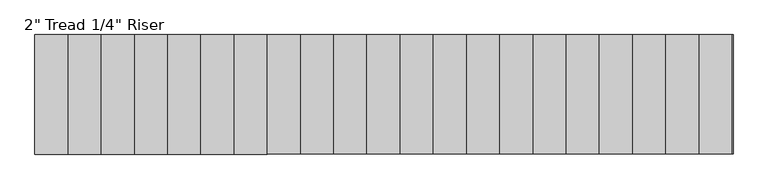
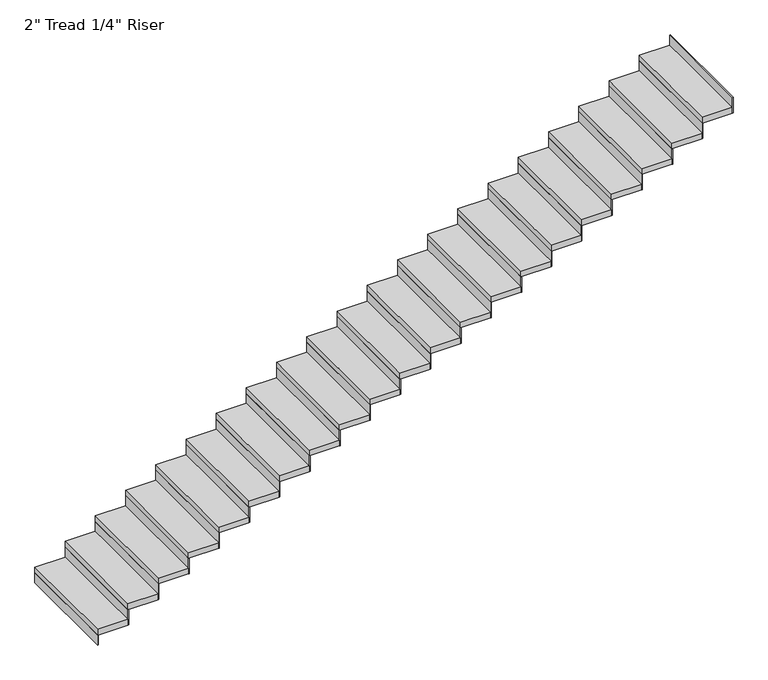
"""IFC4 building model written with IfcOpenShell, lengths in millimetres: stair flight geometry."""

from ifc_helpers import new_model, si_unit, frame, origin, origin_with_axes, place, context, project, spatial, polyline, outline, extrude, source, transform, mapped, element, save


def stair_flight_2cf32423(model_context):
    return source(origin(), model_context, "Body", "SweptSolid", [
        extrude(outline(polyline([(-14526.9713318, 6728.764969), (-14533.3213318, 6728.764969), (-14533.3213318, 7643.164969), (-14526.9713318, 7643.164969), (-14526.9713318, 6728.764969)])), origin_with_axes(), (0.0, 0.0, 1.0), 87.7454545),
        extrude(outline(polyline([(-14279.3213318, 7643.164969), (-14279.3213318, 6728.764969), (-14533.3213318, 6728.764969), (-14533.3213318, 7643.164969), (-14279.3213318, 7643.164969)])), frame((0.0, 0.0, 87.7454545), z_axis=(0.0, 0.0, 1.0), x_axis=(1.0, 0.0, 0.0)), (0.0, 0.0, 1.0), 50.8),
        extrude(outline(polyline([(-14272.9713318, 6728.764969), (-14279.3213318, 6728.764969), (-14279.3213318, 7643.164969), (-14272.9713318, 7643.164969), (-14272.9713318, 6728.764969)])), frame((0.0, 0.0, 87.7454545), z_axis=(0.0, 0.0, 1.0), x_axis=(1.0, 0.0, 0.0)), (0.0, 0.0, 1.0), 138.5454545),
        extrude(outline(polyline([(-14025.3213318, 7643.164969), (-14025.3213318, 6728.764969), (-14279.3213318, 6728.764969), (-14279.3213318, 7643.164969), (-14025.3213318, 7643.164969)])), frame((0.0, 0.0, 226.2909091), z_axis=(0.0, 0.0, 1.0), x_axis=(1.0, 0.0, 0.0)), (0.0, 0.0, 1.0), 50.8),
        extrude(outline(polyline([(-14018.9713318, 6728.764969), (-14025.3213318, 6728.764969), (-14025.3213318, 7643.164969), (-14018.9713318, 7643.164969), (-14018.9713318, 6728.764969)])), frame((0.0, 0.0, 226.2909091), z_axis=(0.0, 0.0, 1.0), x_axis=(1.0, 0.0, 0.0)), (0.0, 0.0, 1.0), 138.5454545),
        extrude(outline(polyline([(-13771.3213318, 7643.164969), (-13771.3213318, 6728.764969), (-14025.3213318, 6728.764969), (-14025.3213318, 7643.164969), (-13771.3213318, 7643.164969)])), frame((0.0, 0.0, 364.8363636), z_axis=(0.0, 0.0, 1.0), x_axis=(1.0, 0.0, 0.0)), (0.0, 0.0, 1.0), 50.8),
        extrude(outline(polyline([(-13764.9713318, 6728.764969), (-13771.3213318, 6728.764969), (-13771.3213318, 7643.164969), (-13764.9713318, 7643.164969), (-13764.9713318, 6728.764969)])), frame((0.0, 0.0, 364.8363636), z_axis=(0.0, 0.0, 1.0), x_axis=(1.0, 0.0, 0.0)), (0.0, 0.0, 1.0), 138.5454545),
        extrude(outline(polyline([(-13517.3213318, 7643.164969), (-13517.3213318, 6728.764969), (-13771.3213318, 6728.764969), (-13771.3213318, 7643.164969), (-13517.3213318, 7643.164969)])), frame((0.0, 0.0, 503.3818182), z_axis=(0.0, 0.0, 1.0), x_axis=(1.0, 0.0, 0.0)), (0.0, 0.0, 1.0), 50.8),
        extrude(outline(polyline([(-13510.9713318, 6728.764969), (-13517.3213318, 6728.764969), (-13517.3213318, 7643.164969), (-13510.9713318, 7643.164969), (-13510.9713318, 6728.764969)])), frame((0.0, 0.0, 503.3818182), z_axis=(0.0, 0.0, 1.0), x_axis=(1.0, 0.0, 0.0)), (0.0, 0.0, 1.0), 138.5454545),
        extrude(outline(polyline([(-13263.3213318, 7643.164969), (-13263.3213318, 6728.764969), (-13517.3213318, 6728.764969), (-13517.3213318, 7643.164969), (-13263.3213318, 7643.164969)])), frame((0.0, 0.0, 641.9272727), z_axis=(0.0, 0.0, 1.0), x_axis=(1.0, 0.0, 0.0)), (0.0, 0.0, 1.0), 50.8),
        extrude(outline(polyline([(-13256.9713318, 6728.764969), (-13263.3213318, 6728.764969), (-13263.3213318, 7643.164969), (-13256.9713318, 7643.164969), (-13256.9713318, 6728.764969)])), frame((0.0, 0.0, 641.9272727), z_axis=(0.0, 0.0, 1.0), x_axis=(1.0, 0.0, 0.0)), (0.0, 0.0, 1.0), 138.5454545),
        extrude(outline(polyline([(-13009.3213318, 7643.164969), (-13009.3213318, 6728.764969), (-13263.3213318, 6728.764969), (-13263.3213318, 7643.164969), (-13009.3213318, 7643.164969)])), frame((0.0, 0.0, 780.4727273), z_axis=(0.0, 0.0, 1.0), x_axis=(1.0, 0.0, 0.0)), (0.0, 0.0, 1.0), 50.8),
        extrude(outline(polyline([(-13002.9713318, 6728.764969), (-13009.3213318, 6728.764969), (-13009.3213318, 7643.164969), (-13002.9713318, 7643.164969), (-13002.9713318, 6728.764969)])), frame((0.0, 0.0, 780.4727273), z_axis=(0.0, 0.0, 1.0), x_axis=(1.0, 0.0, 0.0)), (0.0, 0.0, 1.0), 138.5454545),
        extrude(outline(polyline([(-12755.3213318, 7643.164969), (-12755.3213318, 6728.764969), (-13009.3213318, 6728.764969), (-13009.3213318, 7643.164969), (-12755.3213318, 7643.164969)])), frame((0.0, 0.0, 919.0181818), z_axis=(0.0, 0.0, 1.0), x_axis=(1.0, 0.0, 0.0)), (0.0, 0.0, 1.0), 50.8),
        extrude(outline(polyline([(-12748.9713318, 6728.764969), (-12755.3213318, 6728.764969), (-12755.3213318, 7643.164969), (-12748.9713318, 7643.164969), (-12748.9713318, 6728.764969)])), frame((0.0, 0.0, 919.0181818), z_axis=(0.0, 0.0, 1.0), x_axis=(1.0, 0.0, 0.0)), (0.0, 0.0, 1.0), 138.5454545),
        extrude(outline(polyline([(-12501.3213318, 7643.164969), (-12501.3213318, 6728.764969), (-12755.3213318, 6728.764969), (-12755.3213318, 7643.164969), (-12501.3213318, 7643.164969)])), frame((0.0, 0.0, 1057.5636364), z_axis=(0.0, 0.0, 1.0), x_axis=(1.0, 0.0, 0.0)), (0.0, 0.0, 1.0), 50.8),
        extrude(outline(polyline([(-12494.9713318, 6728.764969), (-12501.3213318, 6728.764969), (-12501.3213318, 7643.164969), (-12494.9713318, 7643.164969), (-12494.9713318, 6728.764969)])), frame((0.0, 0.0, 1057.5636364), z_axis=(0.0, 0.0, 1.0), x_axis=(1.0, 0.0, 0.0)), (0.0, 0.0, 1.0), 138.5454545),
        extrude(outline(polyline([(-12247.3213318, 7643.164969), (-12247.3213318, 6728.764969), (-12501.3213318, 6728.764969), (-12501.3213318, 7643.164969), (-12247.3213318, 7643.164969)])), frame((0.0, 0.0, 1196.1090909), z_axis=(0.0, 0.0, 1.0), x_axis=(1.0, 0.0, 0.0)), (0.0, 0.0, 1.0), 50.8),
        extrude(outline(polyline([(-12240.9713318, 6728.764969), (-12247.3213318, 6728.764969), (-12247.3213318, 7643.164969), (-12240.9713318, 7643.164969), (-12240.9713318, 6728.764969)])), frame((0.0, 0.0, 1196.1090909), z_axis=(0.0, 0.0, 1.0), x_axis=(1.0, 0.0, 0.0)), (0.0, 0.0, 1.0), 138.5454545),
        extrude(outline(polyline([(-11993.3213318, 7643.164969), (-11993.3213318, 6728.764969), (-12247.3213318, 6728.764969), (-12247.3213318, 7643.164969), (-11993.3213318, 7643.164969)])), frame((0.0, 0.0, 1334.6545455), z_axis=(0.0, 0.0, 1.0), x_axis=(1.0, 0.0, 0.0)), (0.0, 0.0, 1.0), 50.8),
        extrude(outline(polyline([(-11986.9713318, 6728.764969), (-11993.3213318, 6728.764969), (-11993.3213318, 7643.164969), (-11986.9713318, 7643.164969), (-11986.9713318, 6728.764969)])), frame((0.0, 0.0, 1334.6545455), z_axis=(0.0, 0.0, 1.0), x_axis=(1.0, 0.0, 0.0)), (0.0, 0.0, 1.0), 138.5454545),
        extrude(outline(polyline([(-11739.3213318, 7643.164969), (-11739.3213318, 6728.764969), (-11993.3213318, 6728.764969), (-11993.3213318, 7643.164969), (-11739.3213318, 7643.164969)])), frame((0.0, 0.0, 1473.2), z_axis=(0.0, 0.0, 1.0), x_axis=(1.0, 0.0, 0.0)), (0.0, 0.0, 1.0), 50.8),
        extrude(outline(polyline([(-11732.9713318, 6728.764969), (-11739.3213318, 6728.764969), (-11739.3213318, 7643.164969), (-11732.9713318, 7643.164969), (-11732.9713318, 6728.764969)])), frame((0.0, 0.0, 1473.2), z_axis=(0.0, 0.0, 1.0), x_axis=(1.0, 0.0, 0.0)), (0.0, 0.0, 1.0), 138.5454545),
        extrude(outline(polyline([(-11485.3213318, 7643.164969), (-11485.3213318, 6728.764969), (-11739.3213318, 6728.764969), (-11739.3213318, 7643.164969), (-11485.3213318, 7643.164969)])), frame((0.0, 0.0, 1611.7454545), z_axis=(0.0, 0.0, 1.0), x_axis=(1.0, 0.0, 0.0)), (0.0, 0.0, 1.0), 50.8),
        extrude(outline(polyline([(-11478.9713318, 6728.764969), (-11485.3213318, 6728.764969), (-11485.3213318, 7643.164969), (-11478.9713318, 7643.164969), (-11478.9713318, 6728.764969)])), frame((0.0, 0.0, 1611.7454545), z_axis=(0.0, 0.0, 1.0), x_axis=(1.0, 0.0, 0.0)), (0.0, 0.0, 1.0), 138.5454545),
        extrude(outline(polyline([(-11231.3213318, 7643.164969), (-11231.3213318, 6728.764969), (-11485.3213318, 6728.764969), (-11485.3213318, 7643.164969), (-11231.3213318, 7643.164969)])), frame((0.0, 0.0, 1750.2909091), z_axis=(0.0, 0.0, 1.0), x_axis=(1.0, 0.0, 0.0)), (0.0, 0.0, 1.0), 50.8),
        extrude(outline(polyline([(-11224.9713318, 6728.764969), (-11231.3213318, 6728.764969), (-11231.3213318, 7643.164969), (-11224.9713318, 7643.164969), (-11224.9713318, 6728.764969)])), frame((0.0, 0.0, 1750.2909091), z_axis=(0.0, 0.0, 1.0), x_axis=(1.0, 0.0, 0.0)), (0.0, 0.0, 1.0), 138.5454545),
        extrude(outline(polyline([(-10977.3213318, 7643.164969), (-10977.3213318, 6728.764969), (-11231.3213318, 6728.764969), (-11231.3213318, 7643.164969), (-10977.3213318, 7643.164969)])), frame((0.0, 0.0, 1888.8363636), z_axis=(0.0, 0.0, 1.0), x_axis=(1.0, 0.0, 0.0)), (0.0, 0.0, 1.0), 50.8),
        extrude(outline(polyline([(-10970.9713318, 6728.764969), (-10977.3213318, 6728.764969), (-10977.3213318, 7643.164969), (-10970.9713318, 7643.164969), (-10970.9713318, 6728.764969)])), frame((0.0, 0.0, 1888.8363636), z_axis=(0.0, 0.0, 1.0), x_axis=(1.0, 0.0, 0.0)), (0.0, 0.0, 1.0), 138.5454545),
        extrude(outline(polyline([(-10723.3213318, 7643.164969), (-10723.3213318, 6728.764969), (-10977.3213318, 6728.764969), (-10977.3213318, 7643.164969), (-10723.3213318, 7643.164969)])), frame((0.0, 0.0, 2027.3818182), z_axis=(0.0, 0.0, 1.0), x_axis=(1.0, 0.0, 0.0)), (0.0, 0.0, 1.0), 50.8),
        extrude(outline(polyline([(-10716.9713318, 6728.764969), (-10723.3213318, 6728.764969), (-10723.3213318, 7643.164969), (-10716.9713318, 7643.164969), (-10716.9713318, 6728.764969)])), frame((0.0, 0.0, 2027.3818182), z_axis=(0.0, 0.0, 1.0), x_axis=(1.0, 0.0, 0.0)), (0.0, 0.0, 1.0), 138.5454545),
        extrude(outline(polyline([(-10469.3213318, 7643.164969), (-10469.3213318, 6728.764969), (-10723.3213318, 6728.764969), (-10723.3213318, 7643.164969), (-10469.3213318, 7643.164969)])), frame((0.0, 0.0, 2165.9272727), z_axis=(0.0, 0.0, 1.0), x_axis=(1.0, 0.0, 0.0)), (0.0, 0.0, 1.0), 50.8),
        extrude(outline(polyline([(-10462.9713318, 6728.764969), (-10469.3213318, 6728.764969), (-10469.3213318, 7643.164969), (-10462.9713318, 7643.164969), (-10462.9713318, 6728.764969)])), frame((0.0, 0.0, 2165.9272727), z_axis=(0.0, 0.0, 1.0), x_axis=(1.0, 0.0, 0.0)), (0.0, 0.0, 1.0), 138.5454545),
        extrude(outline(polyline([(-10215.3213318, 7643.164969), (-10215.3213318, 6728.764969), (-10469.3213318, 6728.764969), (-10469.3213318, 7643.164969), (-10215.3213318, 7643.164969)])), frame((0.0, 0.0, 2304.4727273), z_axis=(0.0, 0.0, 1.0), x_axis=(1.0, 0.0, 0.0)), (0.0, 0.0, 1.0), 50.8),
        extrude(outline(polyline([(-10208.9713318, 6728.764969), (-10215.3213318, 6728.764969), (-10215.3213318, 7643.164969), (-10208.9713318, 7643.164969), (-10208.9713318, 6728.764969)])), frame((0.0, 0.0, 2304.4727273), z_axis=(0.0, 0.0, 1.0), x_axis=(1.0, 0.0, 0.0)), (0.0, 0.0, 1.0), 138.5454545),
        extrude(outline(polyline([(-9961.3213318, 7643.164969), (-9961.3213318, 6728.764969), (-10215.3213318, 6728.764969), (-10215.3213318, 7643.164969), (-9961.3213318, 7643.164969)])), frame((0.0, 0.0, 2443.0181818), z_axis=(0.0, 0.0, 1.0), x_axis=(1.0, 0.0, 0.0)), (0.0, 0.0, 1.0), 50.8),
        extrude(outline(polyline([(-9954.9713318, 6728.764969), (-9961.3213318, 6728.764969), (-9961.3213318, 7643.164969), (-9954.9713318, 7643.164969), (-9954.9713318, 6728.764969)])), frame((0.0, 0.0, 2443.0181818), z_axis=(0.0, 0.0, 1.0), x_axis=(1.0, 0.0, 0.0)), (0.0, 0.0, 1.0), 138.5454545),
        extrude(outline(polyline([(-9707.3213318, 7643.164969), (-9707.3213318, 6728.764969), (-9961.3213318, 6728.764969), (-9961.3213318, 7643.164969), (-9707.3213318, 7643.164969)])), frame((0.0, 0.0, 2581.5636364), z_axis=(0.0, 0.0, 1.0), x_axis=(1.0, 0.0, 0.0)), (0.0, 0.0, 1.0), 50.8),
        extrude(outline(polyline([(-9700.9713318, 6728.764969), (-9707.3213318, 6728.764969), (-9707.3213318, 7643.164969), (-9700.9713318, 7643.164969), (-9700.9713318, 6728.764969)])), frame((0.0, 0.0, 2581.5636364), z_axis=(0.0, 0.0, 1.0), x_axis=(1.0, 0.0, 0.0)), (0.0, 0.0, 1.0), 138.5454545),
        extrude(outline(polyline([(-9453.3213318, 7643.164969), (-9453.3213318, 6728.764969), (-9707.3213318, 6728.764969), (-9707.3213318, 7643.164969), (-9453.3213318, 7643.164969)])), frame((0.0, 0.0, 2720.1090909), z_axis=(0.0, 0.0, 1.0), x_axis=(1.0, 0.0, 0.0)), (0.0, 0.0, 1.0), 50.8),
        extrude(outline(polyline([(-9446.9713318, 6728.764969), (-9453.3213318, 6728.764969), (-9453.3213318, 7643.164969), (-9446.9713318, 7643.164969), (-9446.9713318, 6728.764969)])), frame((0.0, 0.0, 2720.1090909), z_axis=(0.0, 0.0, 1.0), x_axis=(1.0, 0.0, 0.0)), (0.0, 0.0, 1.0), 138.5454545),
        extrude(outline(polyline([(-9192.9713318, 6728.764969), (-9199.3213318, 6728.764969), (-9199.3213318, 7643.164969), (-9192.9713318, 7643.164969), (-9192.9713318, 6728.764969)])), frame((0.0, 0.0, 2858.6545455), z_axis=(0.0, 0.0, 1.0), x_axis=(1.0, 0.0, 0.0)), (0.0, 0.0, 1.0), 138.5454545),
        extrude(outline(polyline([(-9199.3213318, 7643.164969), (-9199.3213318, 6728.764969), (-9453.3213318, 6728.764969), (-9453.3213318, 7643.164969), (-9199.3213318, 7643.164969)])), frame((0.0, 0.0, 2858.6545455), z_axis=(0.0, 0.0, 1.0), x_axis=(1.0, 0.0, 0.0)), (0.0, 0.0, 1.0), 50.8),
    ])


if __name__ == "__main__":
    model = new_model("IFC4")
    model_context = context("Model", 3, world=origin())
    ifc_project = project(units=[si_unit("LENGTHUNIT", "METRE", prefix="MILLI")], contexts=[model_context])
    site = spatial("IfcSite", under=ifc_project)
    building = spatial("IfcBuilding", under=site)
    placement = place(None, origin())
    stair_flight_shape = stair_flight_2cf32423(model_context)
    element("IfcStairFlight", 1, ObjectType="2\" Tread 1/4\" Riser", at=placement, inside=building, context=model_context, shape_type="MappedRepresentation", body=[
        mapped(stair_flight_shape, transform((0.0, 0.0, 0.0), x_axis=(1.0, 0.0, 0.0), y_axis=(0.0, 1.0, 0.0), z_axis=(0.0, 0.0, 1.0))),
    ])
    save(model, "model.ifc")
